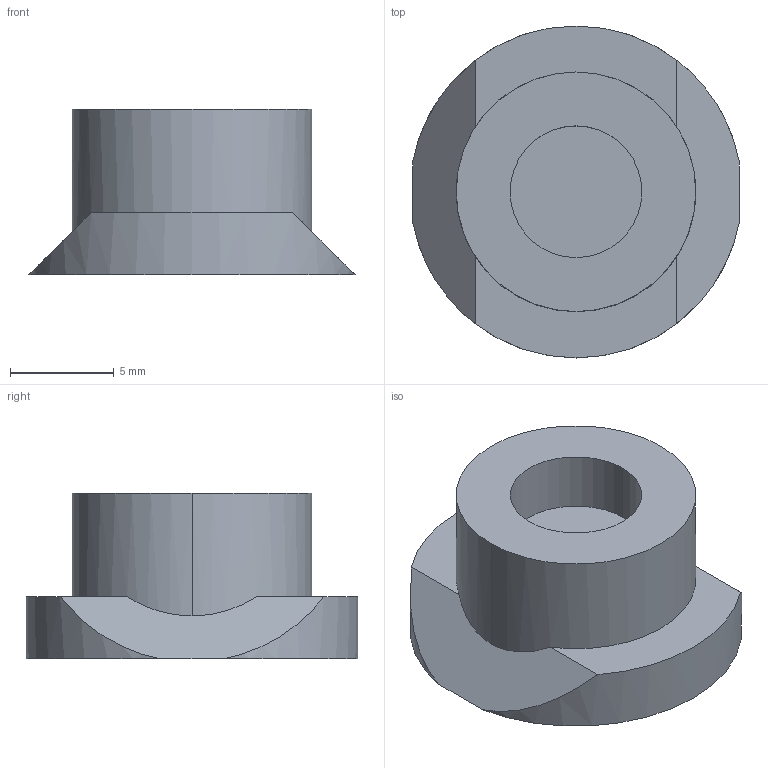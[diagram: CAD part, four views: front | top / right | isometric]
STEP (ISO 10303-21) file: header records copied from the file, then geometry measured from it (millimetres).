
FILE_DESCRIPTION (( 'STEP AP214' ), '1' );
FILE_NAME ('End Cap 1.STEP', '2023-07-31T21:29:11', ( '' ), ( '' ), 'SwSTEP 2.0', 'SolidWorks 2021', '' );
FILE_SCHEMA (( 'AUTOMOTIVE_DESIGN' ));
Length unit declared in the file: millimetre
Products named in the file (1): End Cap 1
Bounding box: 15.72 x 16 x 8 mm (x, y, z)
Volume: 966.7 mm3; surface area: 758.7 mm2
Topology: 1 solids, 1 shells, 13 faces, 30 edges, 20 vertices
Faces by surface type: plane 7, cylinder 6
Entity records: 410 total; most frequent: CARTESIAN_POINT 88, DIRECTION 62, ORIENTED_EDGE 60, EDGE_CURVE 30, AXIS2_PLACEMENT_3D 26, VERTEX_POINT 20, EDGE_LOOP 14, FACE_OUTER_BOUND 13
